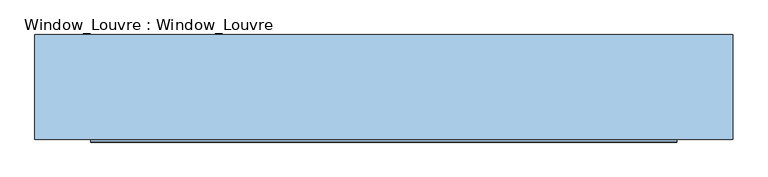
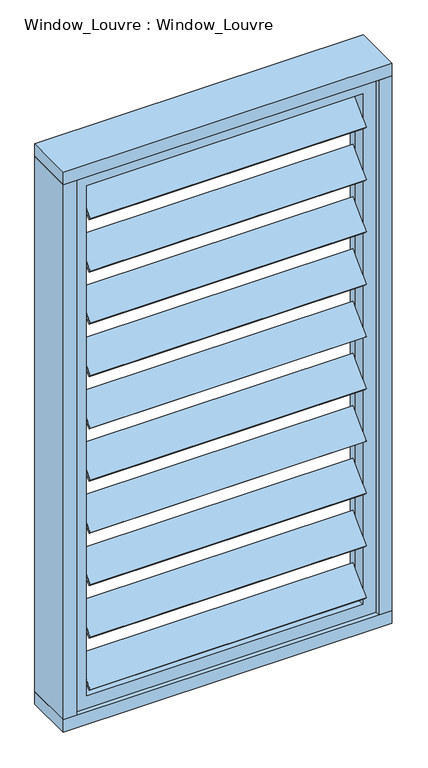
"""IFC4 building model written with IfcOpenShell, lengths in millimetres: window geometry, Window_Louvre : Window_Louvre."""

from ifc_helpers import new_model, si_unit, frame, origin, place, context, project, spatial, polyline, outline, extrude, source, transform, mapped, element, save


def window_louvre_window_louvre_92f3ddc7(model_context):
    return source(origin(), model_context, "Body", "SweptSolid", [
        extrude(outline(polyline([(2360.0, -460.0), (640.0, -460.0), (640.0, 460.0), (2360.0, 460.0), (2360.0, -460.0)]), holes=[polyline([(680.0, -420.0), (2320.0, -420.0), (2320.0, 420.0), (680.0, 420.0), (680.0, -420.0)])]), frame((0.0, -120.0, 0.0), z_axis=(0.0, 1.0, 0.0), x_axis=(0.0, 0.0, 1.0)), (0.0, 0.0, 1.0), 40.0),
        extrude(outline(polyline([(0.0, 10.0), (840.0, 10.0), (840.0, 0.0), (0.0, 0.0), (0.0, 10.0)])), frame((-420.0, -138.890873, 2056.2447885), z_axis=(0.0, 0.7071067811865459, 0.7071067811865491), x_axis=(1.0, 0.0, 0.0)), (0.0, 0.0, 1.0), 100.0),
        extrude(outline(polyline([(0.0, 10.0), (840.0, 10.0), (840.0, 0.0), (0.0, 0.0), (0.0, 10.0)])), frame((-420.0, -138.890873, 1888.2185092), z_axis=(0.0, 0.7071067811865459, 0.7071067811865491), x_axis=(1.0, 0.0, 0.0)), (0.0, 0.0, 1.0), 100.0),
        extrude(outline(polyline([(0.0, 10.0), (840.0, 10.0), (840.0, 0.0), (0.0, 0.0), (0.0, 10.0)])), frame((-420.0, -138.890873, 1720.1922299), z_axis=(0.0, 0.7071067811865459, 0.7071067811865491), x_axis=(1.0, 0.0, 0.0)), (0.0, 0.0, 1.0), 100.0),
        extrude(outline(polyline([(0.0, 10.0000001), (840.0, 10.0000001), (840.0, 0.0), (0.0, 0.0), (0.0, 10.0000001)])), frame((-420.0, -138.890873, 1552.1659507), z_axis=(0.0, 0.7071067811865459, 0.7071067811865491), x_axis=(1.0, 0.0, 0.0)), (0.0, 0.0, 1.0), 100.0),
        extrude(outline(polyline([(0.0, 10.0000001), (840.0, 10.0000001), (840.0, 0.0), (0.0, 0.0), (0.0, 10.0000001)])), frame((-420.0, -138.890873, 1384.1396714), z_axis=(0.0, 0.7071067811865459, 0.7071067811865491), x_axis=(1.0, 0.0, 0.0)), (0.0, 0.0, 1.0), 100.0),
        extrude(outline(polyline([(0.0, 10.0), (840.0, 10.0), (840.0, 0.0), (0.0, 0.0), (0.0, 10.0)])), frame((-420.0, -138.890873, 1216.1133921), z_axis=(0.0, 0.7071067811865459, 0.7071067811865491), x_axis=(1.0, 0.0, 0.0)), (0.0, 0.0, 1.0), 100.0),
        extrude(outline(polyline([(0.0, 10.0), (840.0, 10.0), (840.0, 0.0), (0.0, 0.0), (0.0, 10.0)])), frame((-420.0, -138.890873, 1048.0871128), z_axis=(0.0, 0.7071067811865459, 0.7071067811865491), x_axis=(1.0, 0.0, 0.0)), (0.0, 0.0, 1.0), 100.0),
        extrude(outline(polyline([(0.0, 10.0), (840.0, 10.0), (840.0, 0.0), (0.0, 0.0), (0.0, 10.0)])), frame((-420.0, -138.890873, 880.0608335), z_axis=(0.0, 0.7071067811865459, 0.7071067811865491), x_axis=(1.0, 0.0, 0.0)), (0.0, 0.0, 1.0), 100.0),
        extrude(outline(polyline([(0.0, 10.0), (840.0, 10.0), (840.0, 0.0), (0.0, 0.0), (0.0, 10.0)])), frame((-420.0, -138.890873, 2224.2710678), z_axis=(0.0, 0.7071067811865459, 0.7071067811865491), x_axis=(1.0, 0.0, 0.0)), (0.0, 0.0, 1.0), 100.0),
        extrude(outline(polyline([(0.0, 10.0), (840.0, 10.0), (840.0, 0.0), (0.0, 0.0), (0.0, 10.0)])), frame((-420.0, -138.890873, 712.0345542), z_axis=(0.0, 0.7071067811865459, 0.7071067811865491), x_axis=(1.0, 0.0, 0.0)), (0.0, 0.0, 1.0), 100.0),
        extrude(outline(polyline([(500.0, -135.0), (-500.0, -135.0), (-500.0, 15.0), (500.0, 15.0), (500.0, -135.0)])), frame((0.0, 0.0, 2360.0), z_axis=(0.0, 0.0, 1.0), x_axis=(1.0, 0.0, 0.0)), (0.0, 0.0, 1.0), 40.0),
        extrude(outline(polyline([(500.0, -135.0), (-500.0, -135.0), (-500.0, 15.0), (500.0, 15.0), (500.0, -135.0)])), frame((0.0, 0.0, 600.0), z_axis=(0.0, 0.0, 1.0), x_axis=(1.0, 0.0, 0.0)), (0.0, 0.0, 1.0), 40.0),
        extrude(outline(polyline([(-460.0, 15.0), (-460.0, -135.0), (-500.0, -135.0), (-500.0, 15.0), (-460.0, 15.0)])), frame((0.0, 0.0, 640.0), z_axis=(0.0, 0.0, 1.0), x_axis=(1.0, 0.0, 0.0)), (0.0, 0.0, 1.0), 1720.0),
        extrude(outline(polyline([(460.0, 15.0), (500.0, 15.0), (500.0, -135.0), (460.0, -135.0), (460.0, 15.0)])), frame((0.0, 0.0, 640.0), z_axis=(0.0, 0.0, 1.0), x_axis=(1.0, 0.0, 0.0)), (0.0, 0.0, 1.0), 1720.0),
    ])


if __name__ == "__main__":
    model = new_model("IFC4")
    model_context = context("Model", 3, world=origin())
    ifc_project = project(units=[si_unit("LENGTHUNIT", "METRE", prefix="MILLI")], contexts=[model_context])
    site = spatial("IfcSite", under=ifc_project)
    building = spatial("IfcBuilding", under=site)
    placement = place(None, origin())
    window_louvre_window_louvre_shape = window_louvre_window_louvre_92f3ddc7(model_context)
    element("IfcWindow", 1, ObjectType="Window_Louvre : Window_Louvre", at=placement, inside=building, context=model_context, shape_type="MappedRepresentation", body=[
        mapped(window_louvre_window_louvre_shape, transform((0.0, 0.0, 0.0), x_axis=(1.0, 0.0, 0.0), y_axis=(0.0, 1.0, 0.0), z_axis=(0.0, 0.0, 1.0))),
    ])
    save(model, "model.ifc")
